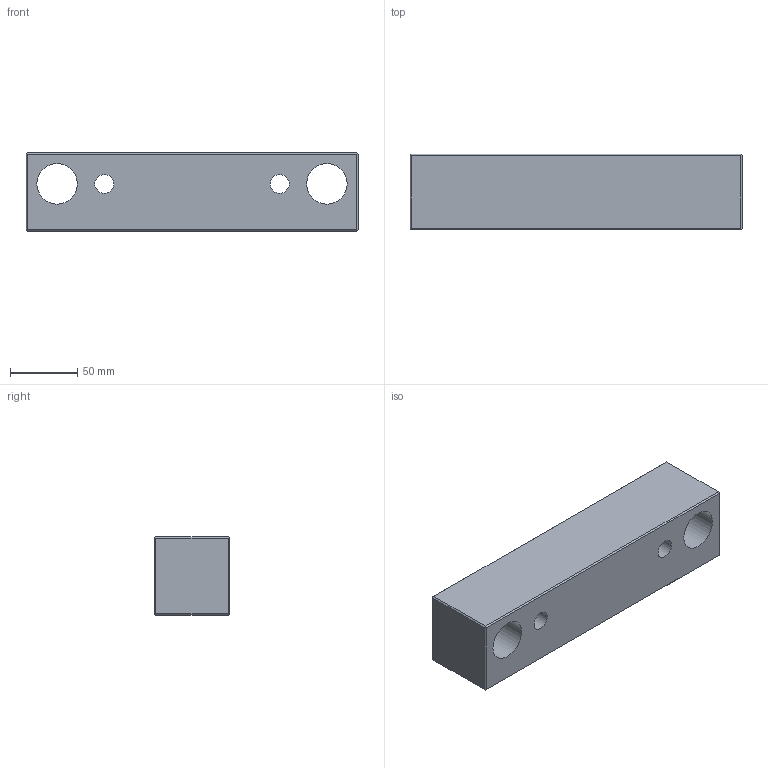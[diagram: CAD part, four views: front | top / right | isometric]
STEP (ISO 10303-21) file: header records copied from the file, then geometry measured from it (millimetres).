
FILE_DESCRIPTION(/* description */ ('STEP AP214'),/* implementation_level */ '2;1');
FILE_NAME(/* name */ 'KM0422462460561730',/* time_stamp */ '2026-07-08T16:11:40+02:00',/* author */ ('License CC BY-ND 4.0'),/* organization */ ('CADENAS'),/* preprocessor_version */ 'ST-DEVELOPER v20',/* originating_system */ 'PARTsolutions',/* authorisation */ ' ');
FILE_SCHEMA (('AUTOMOTIVE_DESIGN {1 0 10303 214 3 1 1}'));
Length unit declared in the file: millimetre
Products named in the file (1): KM0422462460561730
Bounding box: 246 x 56 x 58 mm (x, y, z)
Volume: 701884.8 mm3; surface area: 73777.6 mm2
Topology: 1 solids, 1 shells, 22 faces, 60 edges, 40 vertices
Faces by surface type: plane 18, cylinder 4
Full cylindrical faces by diameter (mm): 14 x2, 30 x2
Entity records: 718 total; most frequent: CARTESIAN_POINT 119, ORIENTED_EDGE 112, DIRECTION 110, EDGE_CURVE 56, LINE 48, VECTOR 48, VERTEX_POINT 40, EDGE_LOOP 34
